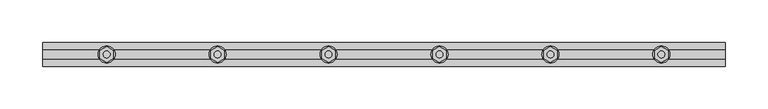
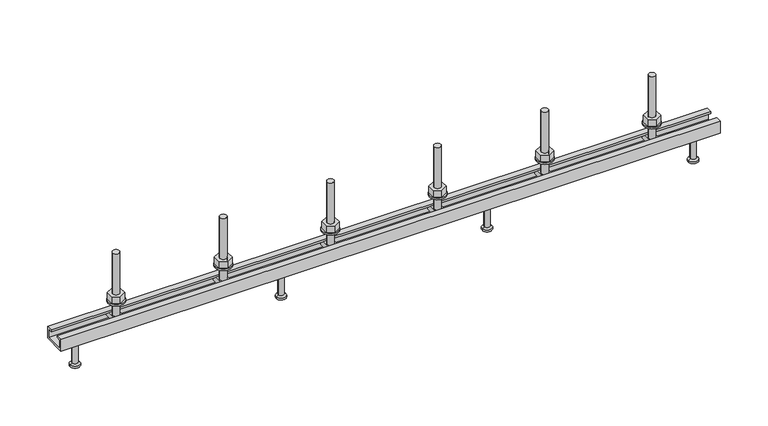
"""IFC4 building model written with IfcOpenShell, lengths in millimetres: fastener geometry, JTA-K JORDAHL® AnchorChannels : JTA-K L=800 mm."""

from ifc_helpers import new_model, si_unit, point, frame, frame_2d, origin, place, context, project, spatial, polyline, circle_curve, trimmed, segment, composite_curve, outline, extrude, source, transform, mapped, element, save
from ifc_brep_helpers import plane_surface, cylinder_surface, revolved_surface, advanced_brep


def fastener_9355f2c9(model_context):
    return source(origin(), model_context, "Body", "SolidModel", [
        extrude(outline(polyline([(595.0, 9.2376043), (603.0, 4.6188022), (603.0, -4.6188022), (595.0, -9.2376043), (587.0, -4.6188022), (587.0, 4.6188022), (595.0, 9.2376043)]), holes=[composite_curve([segment(trimmed(circle_curve(frame_2d((595.0, 0.0)), 4.0), [point((591.0, 0.0))], [point((599.0, 0.0))], True, "CARTESIAN"), True, "CONTINUOUS"), segment(trimmed(circle_curve(frame_2d((595.0, 0.0)), 4.0), [point((599.0, 0.0))], [point((591.0, 0.0))], True, "CARTESIAN"), True, "CONTINUOUS")], self_intersect=False)]), frame((0.0, 0.0, 17.0), z_axis=(0.0, 0.0, 1.0), x_axis=(1.0, 0.0, 0.0)), (0.0, 0.0, 1.0), 8.4),
        extrude(outline(composite_curve([segment(trimmed(circle_curve(frame_2d((595.0, 0.0)), 10.0), [point((585.0, 0.0))], [point((605.0, 0.0))], False, "CARTESIAN"), True, "CONTINUOUS"), segment(trimmed(circle_curve(frame_2d((595.0, 0.0)), 10.0), [point((605.0, 0.0))], [point((585.0, 0.0))], False, "CARTESIAN"), True, "CONTINUOUS")], self_intersect=False), holes=[composite_curve([segment(trimmed(circle_curve(frame_2d((595.0, 0.0)), 5.25), [point((589.75, 0.0))], [point((600.25, 0.0))], True, "CARTESIAN"), True, "CONTINUOUS"), segment(trimmed(circle_curve(frame_2d((595.0, 0.0)), 5.25), [point((600.25, 0.0))], [point((589.75, 0.0))], True, "CARTESIAN"), True, "CONTINUOUS")], self_intersect=False)]), frame((0.0, 0.0, 15.0), z_axis=(0.0, 0.0, 1.0), x_axis=(1.0, 0.0, 0.0)), (0.0, 0.0, 1.0), 2.0),
        extrude(outline(polyline([(465.0, 9.2376043), (473.0, 4.6188022), (473.0, -4.6188022), (465.0, -9.2376043), (457.0, -4.6188022), (457.0, 4.6188022), (465.0, 9.2376043)]), holes=[composite_curve([segment(trimmed(circle_curve(frame_2d((465.0, 0.0)), 4.0), [point((461.0, 0.0))], [point((469.0, 0.0))], True, "CARTESIAN"), True, "CONTINUOUS"), segment(trimmed(circle_curve(frame_2d((465.0, 0.0)), 4.0), [point((469.0, 0.0))], [point((461.0, 0.0))], True, "CARTESIAN"), True, "CONTINUOUS")], self_intersect=False)]), frame((0.0, 0.0, 17.0), z_axis=(0.0, 0.0, 1.0), x_axis=(1.0, 0.0, 0.0)), (0.0, 0.0, 1.0), 8.4),
        extrude(outline(composite_curve([segment(trimmed(circle_curve(frame_2d((465.0, 0.0)), 10.0), [point((455.0, 0.0))], [point((475.0, 0.0))], False, "CARTESIAN"), True, "CONTINUOUS"), segment(trimmed(circle_curve(frame_2d((465.0, 0.0)), 10.0), [point((475.0, 0.0))], [point((455.0, 0.0))], False, "CARTESIAN"), True, "CONTINUOUS")], self_intersect=False), holes=[composite_curve([segment(trimmed(circle_curve(frame_2d((465.0, 0.0)), 5.25), [point((459.75, 0.0))], [point((470.25, 0.0))], True, "CARTESIAN"), True, "CONTINUOUS"), segment(trimmed(circle_curve(frame_2d((465.0, 0.0)), 5.25), [point((470.25, 0.0))], [point((459.75, 0.0))], True, "CARTESIAN"), True, "CONTINUOUS")], self_intersect=False)]), frame((0.0, 0.0, 15.0), z_axis=(0.0, 0.0, 1.0), x_axis=(1.0, 0.0, 0.0)), (0.0, 0.0, 1.0), 2.0),
        extrude(outline(polyline([(335.0, 9.2376043), (343.0, 4.6188022), (343.0, -4.6188022), (335.0, -9.2376043), (327.0, -4.6188022), (327.0, 4.6188022), (335.0, 9.2376043)]), holes=[composite_curve([segment(trimmed(circle_curve(frame_2d((335.0, 0.0)), 4.0), [point((331.0, 0.0))], [point((339.0, 0.0))], True, "CARTESIAN"), True, "CONTINUOUS"), segment(trimmed(circle_curve(frame_2d((335.0, 0.0)), 4.0), [point((339.0, 0.0))], [point((331.0, 0.0))], True, "CARTESIAN"), True, "CONTINUOUS")], self_intersect=False)]), frame((0.0, 0.0, 17.0), z_axis=(0.0, 0.0, 1.0), x_axis=(1.0, 0.0, 0.0)), (0.0, 0.0, 1.0), 8.4),
        extrude(outline(composite_curve([segment(trimmed(circle_curve(frame_2d((335.0, 0.0)), 10.0), [point((325.0, 0.0))], [point((345.0, 0.0))], False, "CARTESIAN"), True, "CONTINUOUS"), segment(trimmed(circle_curve(frame_2d((335.0, 0.0)), 10.0), [point((345.0, 0.0))], [point((325.0, 0.0))], False, "CARTESIAN"), True, "CONTINUOUS")], self_intersect=False), holes=[composite_curve([segment(trimmed(circle_curve(frame_2d((335.0, 0.0)), 5.25), [point((329.75, 0.0))], [point((340.25, 0.0))], True, "CARTESIAN"), True, "CONTINUOUS"), segment(trimmed(circle_curve(frame_2d((335.0, 0.0)), 5.25), [point((340.25, 0.0))], [point((329.75, 0.0))], True, "CARTESIAN"), True, "CONTINUOUS")], self_intersect=False)]), frame((0.0, 0.0, 15.0), z_axis=(0.0, 0.0, 1.0), x_axis=(1.0, 0.0, 0.0)), (0.0, 0.0, 1.0), 2.0),
        extrude(outline(polyline([(205.0, 9.2376043), (213.0, 4.6188022), (213.0, -4.6188022), (205.0, -9.2376043), (197.0, -4.6188022), (197.0, 4.6188022), (205.0, 9.2376043)]), holes=[composite_curve([segment(trimmed(circle_curve(frame_2d((205.0, 0.0)), 4.0), [point((201.0, 0.0))], [point((209.0, 0.0))], True, "CARTESIAN"), True, "CONTINUOUS"), segment(trimmed(circle_curve(frame_2d((205.0, 0.0)), 4.0), [point((209.0, 0.0))], [point((201.0, 0.0))], True, "CARTESIAN"), True, "CONTINUOUS")], self_intersect=False)]), frame((0.0, 0.0, 17.0), z_axis=(0.0, 0.0, 1.0), x_axis=(1.0, 0.0, 0.0)), (0.0, 0.0, 1.0), 8.4),
        extrude(outline(composite_curve([segment(trimmed(circle_curve(frame_2d((205.0, 0.0)), 10.0), [point((195.0, 0.0))], [point((215.0, 0.0))], False, "CARTESIAN"), True, "CONTINUOUS"), segment(trimmed(circle_curve(frame_2d((205.0, 0.0)), 10.0), [point((215.0, 0.0))], [point((195.0, 0.0))], False, "CARTESIAN"), True, "CONTINUOUS")], self_intersect=False), holes=[composite_curve([segment(trimmed(circle_curve(frame_2d((205.0, 0.0)), 5.25), [point((199.75, 0.0))], [point((210.25, 0.0))], True, "CARTESIAN"), True, "CONTINUOUS"), segment(trimmed(circle_curve(frame_2d((205.0, 0.0)), 5.25), [point((210.25, 0.0))], [point((199.75, 0.0))], True, "CARTESIAN"), True, "CONTINUOUS")], self_intersect=False)]), frame((0.0, 0.0, 15.0), z_axis=(0.0, 0.0, 1.0), x_axis=(1.0, 0.0, 0.0)), (0.0, 0.0, 1.0), 2.0),
        advanced_brep(
        [(600.5, 11.0, -2.3), (600.5, -11.0, -2.3), (600.5, -11.0, -8.3), (600.5, 11.0, -8.3), (589.5, 11.0, -2.3), (589.5, 11.0, -8.3), (589.5, -11.0, -8.3), (589.5, -11.0, -2.3), (599.0, 0.0, -2.3), (591.0, 0.0, -2.3), (591.0, 0.0, 77.7), (599.0, 0.0, 77.7)],
        [
            (0, 1),
            (1, 2),
            (2, 3),
            (3, 0),
            (4, 5),
            (5, 6),
            (6, 7),
            (7, 4),
            (0, 4),
            (7, 1),
            (8, 9, circle_curve(frame((595.0, 0.0, -2.3), z_axis=(0.0, 0.0, -1.0), x_axis=(1.0, 0.0, 0.0)), 4.0)),
            (9, 8, circle_curve(frame((595.0, 0.0, -2.3), z_axis=(0.0, 0.0, -1.0), x_axis=(1.0, 0.0, 0.0)), 4.0)),
            (6, 2),
            (5, 3),
            (10, 11, circle_curve(frame((595.0, 0.0, 77.7), z_axis=(0.0, 0.0, 1.0), x_axis=(1.0, 0.0, 0.0)), 4.0)),
            (11, 10, circle_curve(frame((595.0, 0.0, 77.7), z_axis=(0.0, 0.0, 1.0), x_axis=(1.0, 0.0, 0.0)), 4.0)),
            (10, 9),
            (8, 11),
        ],
        [
            plane_surface(frame((600.5, -11.0, -2.3), z_axis=(1.0, 0.0, 0.0), x_axis=(0.0, -1.0, 0.0))),
            plane_surface(frame((589.5, -11.0, -2.3), z_axis=(-1.0, 0.0, 0.0), x_axis=(0.0, 1.0, 0.0))),
            plane_surface(frame((600.5, 11.0, -2.3), z_axis=(0.0, 0.0, 1.0), x_axis=(-1.0, 0.0, 0.0))),
            plane_surface(frame((600.5, -11.0, -2.3), z_axis=(0.0, -1.0, 0.0), x_axis=(-1.0, 0.0, 0.0))),
            plane_surface(frame((600.5, -11.0, -8.3), z_axis=(0.0, 0.0, -1.0), x_axis=(-1.0, 0.0, 0.0))),
            plane_surface(frame((600.5, 11.0, -8.3), z_axis=(0.0, 1.0, 0.0), x_axis=(-1.0, 0.0, 0.0))),
            plane_surface(frame((599.0, 0.0, 77.7), z_axis=(0.0, 0.0, 1.0), x_axis=(0.0, 1.0, 0.0))),
            cylinder_surface(frame((595.0, 0.0, -2.3), z_axis=(0.0, 0.0, 1.0), x_axis=(1.0, 0.0, 0.0)), 4.0),
        ],
        [
            (0, [[1, 2, 3, 4]]),
            (1, [[5, 6, 7, 8]]),
            (2, [[-1, 9, -8, 10], [11, 12]]),
            (3, [[-2, -10, -7, 13]]),
            (4, [[-3, -13, -6, 14]]),
            (5, [[-4, -14, -5, -9]]),
            (6, [[15, 16]]),
            (7, [[-15, 17, -11, 18]]),
            (7, [[-16, -18, -12, -17]]),
        ],
    ),
        advanced_brep(
        [(470.5, 11.0, -2.3), (470.5, -11.0, -2.3), (470.5, -11.0, -8.3), (470.5, 11.0, -8.3), (459.5, 11.0, -2.3), (459.5, 11.0, -8.3), (459.5, -11.0, -8.3), (459.5, -11.0, -2.3), (469.0, 0.0, -2.3), (461.0, 0.0, -2.3), (461.0, 0.0, 77.7), (469.0, 0.0, 77.7)],
        [
            (0, 1),
            (1, 2),
            (2, 3),
            (3, 0),
            (4, 5),
            (5, 6),
            (6, 7),
            (7, 4),
            (0, 4),
            (7, 1),
            (8, 9, circle_curve(frame((465.0, 0.0, -2.3), z_axis=(0.0, 0.0, -1.0), x_axis=(1.0, 0.0, 0.0)), 4.0)),
            (9, 8, circle_curve(frame((465.0, 0.0, -2.3), z_axis=(0.0, 0.0, -1.0), x_axis=(1.0, 0.0, 0.0)), 4.0)),
            (6, 2),
            (5, 3),
            (10, 11, circle_curve(frame((465.0, 0.0, 77.7), z_axis=(0.0, 0.0, 1.0), x_axis=(1.0, 0.0, 0.0)), 4.0)),
            (11, 10, circle_curve(frame((465.0, 0.0, 77.7), z_axis=(0.0, 0.0, 1.0), x_axis=(1.0, 0.0, 0.0)), 4.0)),
            (10, 9),
            (8, 11),
        ],
        [
            plane_surface(frame((470.5, -11.0, -2.3), z_axis=(1.0, 0.0, 0.0), x_axis=(0.0, -1.0, 0.0))),
            plane_surface(frame((459.5, -11.0, -2.3), z_axis=(-1.0, 0.0, 0.0), x_axis=(0.0, 1.0, 0.0))),
            plane_surface(frame((470.5, 11.0, -2.3), z_axis=(0.0, 0.0, 1.0), x_axis=(-1.0, 0.0, 0.0))),
            plane_surface(frame((470.5, -11.0, -2.3), z_axis=(0.0, -1.0, 0.0), x_axis=(-1.0, 0.0, 0.0))),
            plane_surface(frame((470.5, -11.0, -8.3), z_axis=(0.0, 0.0, -1.0), x_axis=(-1.0, 0.0, 0.0))),
            plane_surface(frame((470.5, 11.0, -8.3), z_axis=(0.0, 1.0, 0.0), x_axis=(-1.0, 0.0, 0.0))),
            plane_surface(frame((469.0, 0.0, 77.7), z_axis=(0.0, 0.0, 1.0), x_axis=(0.0, 1.0, 0.0))),
            cylinder_surface(frame((465.0, 0.0, -2.3), z_axis=(0.0, 0.0, 1.0), x_axis=(1.0, 0.0, 0.0)), 4.0),
        ],
        [
            (0, [[1, 2, 3, 4]]),
            (1, [[5, 6, 7, 8]]),
            (2, [[-1, 9, -8, 10], [11, 12]]),
            (3, [[-2, -10, -7, 13]]),
            (4, [[-3, -13, -6, 14]]),
            (5, [[-4, -14, -5, -9]]),
            (6, [[15, 16]]),
            (7, [[-15, 17, -11, 18]]),
            (7, [[-16, -18, -12, -17]]),
        ],
    ),
        advanced_brep(
        [(340.5, 11.0, -2.3), (340.5, -11.0, -2.3), (340.5, -11.0, -8.3), (340.5, 11.0, -8.3), (329.5, 11.0, -2.3), (329.5, 11.0, -8.3), (329.5, -11.0, -8.3), (329.5, -11.0, -2.3), (339.0, 0.0, -2.3), (331.0, 0.0, -2.3), (331.0, 0.0, 77.7), (339.0, 0.0, 77.7)],
        [
            (0, 1),
            (1, 2),
            (2, 3),
            (3, 0),
            (4, 5),
            (5, 6),
            (6, 7),
            (7, 4),
            (0, 4),
            (7, 1),
            (8, 9, circle_curve(frame((335.0, 0.0, -2.3), z_axis=(0.0, 0.0, -1.0), x_axis=(1.0, 0.0, 0.0)), 4.0)),
            (9, 8, circle_curve(frame((335.0, 0.0, -2.3), z_axis=(0.0, 0.0, -1.0), x_axis=(1.0, 0.0, 0.0)), 4.0)),
            (6, 2),
            (5, 3),
            (10, 11, circle_curve(frame((335.0, 0.0, 77.7), z_axis=(0.0, 0.0, 1.0), x_axis=(1.0, 0.0, 0.0)), 4.0)),
            (11, 10, circle_curve(frame((335.0, 0.0, 77.7), z_axis=(0.0, 0.0, 1.0), x_axis=(1.0, 0.0, 0.0)), 4.0)),
            (10, 9),
            (8, 11),
        ],
        [
            plane_surface(frame((340.5, -11.0, -2.3), z_axis=(1.0, 0.0, 0.0), x_axis=(0.0, -1.0, 0.0))),
            plane_surface(frame((329.5, -11.0, -2.3), z_axis=(-1.0, 0.0, 0.0), x_axis=(0.0, 1.0, 0.0))),
            plane_surface(frame((340.5, 11.0, -2.3), z_axis=(0.0, 0.0, 1.0), x_axis=(-1.0, 0.0, 0.0))),
            plane_surface(frame((340.5, -11.0, -2.3), z_axis=(0.0, -1.0, 0.0), x_axis=(-1.0, 0.0, 0.0))),
            plane_surface(frame((340.5, -11.0, -8.3), z_axis=(0.0, 0.0, -1.0), x_axis=(-1.0, 0.0, 0.0))),
            plane_surface(frame((340.5, 11.0, -8.3), z_axis=(0.0, 1.0, 0.0), x_axis=(-1.0, 0.0, 0.0))),
            plane_surface(frame((339.0, 0.0, 77.7), z_axis=(0.0, 0.0, 1.0), x_axis=(0.0, 1.0, 0.0))),
            cylinder_surface(frame((335.0, 0.0, -2.3), z_axis=(0.0, 0.0, 1.0), x_axis=(1.0, 0.0, 0.0)), 4.0),
        ],
        [
            (0, [[1, 2, 3, 4]]),
            (1, [[5, 6, 7, 8]]),
            (2, [[-1, 9, -8, 10], [11, 12]]),
            (3, [[-2, -10, -7, 13]]),
            (4, [[-3, -13, -6, 14]]),
            (5, [[-4, -14, -5, -9]]),
            (6, [[15, 16]]),
            (7, [[-15, 17, -11, 18]]),
            (7, [[-16, -18, -12, -17]]),
        ],
    ),
        advanced_brep(
        [(210.5, 11.0, -2.3), (210.5, -11.0, -2.3), (210.5, -11.0, -8.3), (210.5, 11.0, -8.3), (199.5, 11.0, -2.3), (199.5, 11.0, -8.3), (199.5, -11.0, -8.3), (199.5, -11.0, -2.3), (209.0, 0.0, -2.3), (201.0, 0.0, -2.3), (201.0, 0.0, 77.7), (209.0, 0.0, 77.7)],
        [
            (0, 1),
            (1, 2),
            (2, 3),
            (3, 0),
            (4, 5),
            (5, 6),
            (6, 7),
            (7, 4),
            (0, 4),
            (7, 1),
            (8, 9, circle_curve(frame((205.0, 0.0, -2.3), z_axis=(0.0, 0.0, -1.0), x_axis=(1.0, 0.0, 0.0)), 4.0)),
            (9, 8, circle_curve(frame((205.0, 0.0, -2.3), z_axis=(0.0, 0.0, -1.0), x_axis=(1.0, 0.0, 0.0)), 4.0)),
            (6, 2),
            (5, 3),
            (10, 11, circle_curve(frame((205.0, 0.0, 77.7), z_axis=(0.0, 0.0, 1.0), x_axis=(1.0, 0.0, 0.0)), 4.0)),
            (11, 10, circle_curve(frame((205.0, 0.0, 77.7), z_axis=(0.0, 0.0, 1.0), x_axis=(1.0, 0.0, 0.0)), 4.0)),
            (10, 9),
            (8, 11),
        ],
        [
            plane_surface(frame((210.5, -11.0, -2.3), z_axis=(1.0, 0.0, 0.0), x_axis=(0.0, -1.0, 0.0))),
            plane_surface(frame((199.5, -11.0, -2.3), z_axis=(-1.0, 0.0, 0.0), x_axis=(0.0, 1.0, 0.0))),
            plane_surface(frame((210.5, 11.0, -2.3), z_axis=(0.0, 0.0, 1.0), x_axis=(-1.0, 0.0, 0.0))),
            plane_surface(frame((210.5, -11.0, -2.3), z_axis=(0.0, -1.0, 0.0), x_axis=(-1.0, 0.0, 0.0))),
            plane_surface(frame((210.5, -11.0, -8.3), z_axis=(0.0, 0.0, -1.0), x_axis=(-1.0, 0.0, 0.0))),
            plane_surface(frame((210.5, 11.0, -8.3), z_axis=(0.0, 1.0, 0.0), x_axis=(-1.0, 0.0, 0.0))),
            plane_surface(frame((209.0, 0.0, 77.7), z_axis=(0.0, 0.0, 1.0), x_axis=(0.0, 1.0, 0.0))),
            cylinder_surface(frame((205.0, 0.0, -2.3), z_axis=(0.0, 0.0, 1.0), x_axis=(1.0, 0.0, 0.0)), 4.0),
        ],
        [
            (0, [[1, 2, 3, 4]]),
            (1, [[5, 6, 7, 8]]),
            (2, [[-1, 9, -8, 10], [11, 12]]),
            (3, [[-2, -10, -7, 13]]),
            (4, [[-3, -13, -6, 14]]),
            (5, [[-4, -14, -5, -9]]),
            (6, [[15, 16]]),
            (7, [[-15, 17, -11, 18]]),
            (7, [[-16, -18, -12, -17]]),
        ],
    ),
        advanced_brep(
        [(525.0, 0.0, -15.0), (535.5, 0.0, -15.0), (514.5, 0.0, -15.0), (519.0, 0.0, -50.0), (531.0, 0.0, -50.0), (525.0, 0.0, -50.0), (519.0, 0.0, -48.0), (531.0, 0.0, -48.0), (521.5, 0.0, -46.5566243), (528.5, 0.0, -46.5566243), (521.5, 0.0, -17.5), (528.5, 0.0, -17.5)],
        [
            (0, 1),
            (1, 2, circle_curve(frame((525.0, 0.0, -15.0), z_axis=(0.0, 0.0, 1.0), x_axis=(1.0, 0.0, 0.0)), 10.5)),
            (2, 0),
            (2, 1, circle_curve(frame((525.0, 0.0, -15.0), z_axis=(0.0, 0.0, 1.0), x_axis=(1.0, 0.0, 0.0)), 10.5)),
            (3, 4, circle_curve(frame((525.0, 0.0, -50.0), z_axis=(0.0, 0.0, -1.0), x_axis=(1.0, 0.0, 0.0)), 6.0)),
            (4, 5),
            (5, 3),
            (4, 3, circle_curve(frame((525.0, 0.0, -50.0), z_axis=(0.0, 0.0, -1.0), x_axis=(1.0, 0.0, 0.0)), 6.0)),
            (6, 7, circle_curve(frame((525.0, 0.0, -48.0), z_axis=(0.0, 0.0, -1.0), x_axis=(1.0, 0.0, 0.0)), 6.0)),
            (7, 4),
            (3, 6),
            (7, 6, circle_curve(frame((525.0, 0.0, -48.0), z_axis=(0.0, 0.0, -1.0), x_axis=(1.0, 0.0, 0.0)), 6.0)),
            (8, 9, circle_curve(frame((525.0, 0.0, -46.5566243), z_axis=(0.0, 0.0, -1.0), x_axis=(1.0, 0.0, 0.0)), 3.5)),
            (9, 7),
            (6, 8),
            (9, 8, circle_curve(frame((525.0, 0.0, -46.5566243), z_axis=(0.0, 0.0, -1.0), x_axis=(1.0, 0.0, 0.0)), 3.5)),
            (10, 11, circle_curve(frame((525.0, 0.0, -17.5), z_axis=(0.0, 0.0, -1.0), x_axis=(1.0, 0.0, 0.0)), 3.5)),
            (11, 9),
            (8, 10),
            (11, 10, circle_curve(frame((525.0, 0.0, -17.5), z_axis=(0.0, 0.0, -1.0), x_axis=(1.0, 0.0, 0.0)), 3.5)),
            (1, 11),
            (10, 2),
        ],
        [
            plane_surface(frame((525.0, 0.0, -15.0), z_axis=(0.0, 0.0, 1.0), x_axis=(1.0, 0.0, 0.0))),
            plane_surface(frame((525.0, 0.0, -50.0), z_axis=(0.0, 0.0, -1.0), x_axis=(1.0, 0.0, 0.0))),
            cylinder_surface(frame((525.0, 0.0, 2249.3150031), z_axis=(0.0, 0.0, 1.0), x_axis=(1.0, 0.0, 0.0)), 6.0),
            revolved_surface(polyline([(531.0, 0.0, -48.0), (528.5, 0.0, -46.5566243)]), (525.0, 0.0, 2249.3150031), (0.0, 0.0, 1.0)),
            cylinder_surface(frame((525.0, 0.0, 2249.3150031), z_axis=(0.0, 0.0, 1.0), x_axis=(1.0, 0.0, 0.0)), 3.5),
            revolved_surface(polyline([(528.5, 0.0, -17.5), (535.5, 0.0, -15.0)]), (525.0, 0.0, 2249.3150031), (0.0, 0.0, 1.0)),
        ],
        [
            (0, [[1, 2, 3]]),
            (0, [[-3, 4, -1]]),
            (1, [[5, 6, 7]]),
            (1, [[8, -7, -6]]),
            (2, [[9, 10, -5, 11]]),
            (2, [[12, -11, -8, -10]]),
            (3, [[13, 14, -9, 15]]),
            (3, [[16, -15, -12, -14]]),
            (4, [[17, 18, -13, 19]]),
            (4, [[20, -19, -16, -18]]),
            (5, [[-2, 21, -17, 22]]),
            (5, [[-4, -22, -20, -21]]),
        ],
    ),
        advanced_brep(
        [(275.0, 0.0, -15.0), (285.5, 0.0, -15.0), (264.5, 0.0, -15.0), (269.0, 0.0, -50.0), (281.0, 0.0, -50.0), (275.0, 0.0, -50.0), (269.0, 0.0, -48.0), (281.0, 0.0, -48.0), (271.5, 0.0, -46.5566243), (278.5, 0.0, -46.5566243), (271.5, 0.0, -17.5), (278.5, 0.0, -17.5)],
        [
            (0, 1),
            (1, 2, circle_curve(frame((275.0, 0.0, -15.0), z_axis=(0.0, 0.0, 1.0), x_axis=(1.0, 0.0, 0.0)), 10.5)),
            (2, 0),
            (2, 1, circle_curve(frame((275.0, 0.0, -15.0), z_axis=(0.0, 0.0, 1.0), x_axis=(1.0, 0.0, 0.0)), 10.5)),
            (3, 4, circle_curve(frame((275.0, 0.0, -50.0), z_axis=(0.0, 0.0, -1.0), x_axis=(1.0, 0.0, 0.0)), 6.0)),
            (4, 5),
            (5, 3),
            (4, 3, circle_curve(frame((275.0, 0.0, -50.0), z_axis=(0.0, 0.0, -1.0), x_axis=(1.0, 0.0, 0.0)), 6.0)),
            (6, 7, circle_curve(frame((275.0, 0.0, -48.0), z_axis=(0.0, 0.0, -1.0), x_axis=(1.0, 0.0, 0.0)), 6.0)),
            (7, 4),
            (3, 6),
            (7, 6, circle_curve(frame((275.0, 0.0, -48.0), z_axis=(0.0, 0.0, -1.0), x_axis=(1.0, 0.0, 0.0)), 6.0)),
            (8, 9, circle_curve(frame((275.0, 0.0, -46.5566243), z_axis=(0.0, 0.0, -1.0), x_axis=(1.0, 0.0, 0.0)), 3.5)),
            (9, 7),
            (6, 8),
            (9, 8, circle_curve(frame((275.0, 0.0, -46.5566243), z_axis=(0.0, 0.0, -1.0), x_axis=(1.0, 0.0, 0.0)), 3.5)),
            (10, 11, circle_curve(frame((275.0, 0.0, -17.5), z_axis=(0.0, 0.0, -1.0), x_axis=(1.0, 0.0, 0.0)), 3.5)),
            (11, 9),
            (8, 10),
            (11, 10, circle_curve(frame((275.0, 0.0, -17.5), z_axis=(0.0, 0.0, -1.0), x_axis=(1.0, 0.0, 0.0)), 3.5)),
            (1, 11),
            (10, 2),
        ],
        [
            plane_surface(frame((275.0, 0.0, -15.0), z_axis=(0.0, 0.0, 1.0), x_axis=(1.0, 0.0, 0.0))),
            plane_surface(frame((275.0, 0.0, -50.0), z_axis=(0.0, 0.0, -1.0), x_axis=(1.0, 0.0, 0.0))),
            cylinder_surface(frame((275.0, 0.0, 2249.3150031), z_axis=(0.0, 0.0, 1.0), x_axis=(1.0, 0.0, 0.0)), 6.0),
            revolved_surface(polyline([(281.0, 0.0, -48.0), (278.5, 0.0, -46.5566243)]), (275.0, 0.0, 2249.3150031), (0.0, 0.0, 1.0)),
            cylinder_surface(frame((275.0, 0.0, 2249.3150031), z_axis=(0.0, 0.0, 1.0), x_axis=(1.0, 0.0, 0.0)), 3.5),
            revolved_surface(polyline([(278.5, 0.0, -17.5), (285.5, 0.0, -15.0)]), (275.0, 0.0, 2249.3150031), (0.0, 0.0, 1.0)),
        ],
        [
            (0, [[1, 2, 3]]),
            (0, [[-3, 4, -1]]),
            (1, [[5, 6, 7]]),
            (1, [[8, -7, -6]]),
            (2, [[9, 10, -5, 11]]),
            (2, [[12, -11, -8, -10]]),
            (3, [[13, 14, -9, 15]]),
            (3, [[16, -15, -12, -14]]),
            (4, [[17, 18, -13, 19]]),
            (4, [[20, -19, -16, -18]]),
            (5, [[-2, 21, -17, 22]]),
            (5, [[-4, -22, -20, -21]]),
        ],
    ),
        extrude(outline(polyline([(725.0, 9.2376043), (733.0, 4.6188022), (733.0, -4.6188022), (725.0, -9.2376043), (717.0, -4.6188022), (717.0, 4.6188022), (725.0, 9.2376043)]), holes=[composite_curve([segment(trimmed(circle_curve(frame_2d((725.0, 0.0)), 4.0), [point((721.0, 0.0))], [point((729.0, 0.0))], True, "CARTESIAN"), True, "CONTINUOUS"), segment(trimmed(circle_curve(frame_2d((725.0, 0.0)), 4.0), [point((729.0, 0.0))], [point((721.0, 0.0))], True, "CARTESIAN"), True, "CONTINUOUS")], self_intersect=False)]), frame((0.0, 0.0, 17.0), z_axis=(0.0, 0.0, 1.0), x_axis=(1.0, 0.0, 0.0)), (0.0, 0.0, 1.0), 8.4),
        extrude(outline(composite_curve([segment(trimmed(circle_curve(frame_2d((725.0, 0.0)), 10.0), [point((715.0, 0.0))], [point((735.0, 0.0))], False, "CARTESIAN"), True, "CONTINUOUS"), segment(trimmed(circle_curve(frame_2d((725.0, 0.0)), 10.0), [point((735.0, 0.0))], [point((715.0, 0.0))], False, "CARTESIAN"), True, "CONTINUOUS")], self_intersect=False), holes=[composite_curve([segment(trimmed(circle_curve(frame_2d((725.0, 0.0)), 5.25), [point((719.75, 0.0))], [point((730.25, 0.0))], True, "CARTESIAN"), True, "CONTINUOUS"), segment(trimmed(circle_curve(frame_2d((725.0, 0.0)), 5.25), [point((730.25, 0.0))], [point((719.75, 0.0))], True, "CARTESIAN"), True, "CONTINUOUS")], self_intersect=False)]), frame((0.0, 0.0, 15.0), z_axis=(0.0, 0.0, 1.0), x_axis=(1.0, 0.0, 0.0)), (0.0, 0.0, 1.0), 2.0),
        extrude(outline(polyline([(75.0, 9.2376043), (83.0, 4.6188022), (83.0, -4.6188022), (75.0, -9.2376043), (67.0, -4.6188022), (67.0, 4.6188022), (75.0, 9.2376043)]), holes=[composite_curve([segment(trimmed(circle_curve(frame_2d((75.0, 0.0)), 4.0), [point((71.0, 0.0))], [point((79.0, 0.0))], True, "CARTESIAN"), True, "CONTINUOUS"), segment(trimmed(circle_curve(frame_2d((75.0, 0.0)), 4.0), [point((79.0, 0.0))], [point((71.0, 0.0))], True, "CARTESIAN"), True, "CONTINUOUS")], self_intersect=False)]), frame((0.0, 0.0, 17.0), z_axis=(0.0, 0.0, 1.0), x_axis=(1.0, 0.0, 0.0)), (0.0, 0.0, 1.0), 8.4),
        extrude(outline(composite_curve([segment(trimmed(circle_curve(frame_2d((75.0, 0.0)), 10.0), [point((65.0, 0.0))], [point((85.0, 0.0))], False, "CARTESIAN"), True, "CONTINUOUS"), segment(trimmed(circle_curve(frame_2d((75.0, 0.0)), 10.0), [point((85.0, 0.0))], [point((65.0, 0.0))], False, "CARTESIAN"), True, "CONTINUOUS")], self_intersect=False), holes=[composite_curve([segment(trimmed(circle_curve(frame_2d((75.0, 0.0)), 5.25), [point((69.75, 0.0))], [point((80.25, 0.0))], True, "CARTESIAN"), True, "CONTINUOUS"), segment(trimmed(circle_curve(frame_2d((75.0, 0.0)), 5.25), [point((80.25, 0.0))], [point((69.75, 0.0))], True, "CARTESIAN"), True, "CONTINUOUS")], self_intersect=False)]), frame((0.0, 0.0, 15.0), z_axis=(0.0, 0.0, 1.0), x_axis=(1.0, 0.0, 0.0)), (0.0, 0.0, 1.0), 2.0),
        advanced_brep(
        [(730.5, 11.0, -2.3), (730.5, -11.0, -2.3), (730.5, -11.0, -8.3), (730.5, 11.0, -8.3), (719.5, 11.0, -2.3), (719.5, 11.0, -8.3), (719.5, -11.0, -8.3), (719.5, -11.0, -2.3), (729.0, 0.0, -2.3), (721.0, 0.0, -2.3), (721.0, 0.0, 77.7), (729.0, 0.0, 77.7)],
        [
            (0, 1),
            (1, 2),
            (2, 3),
            (3, 0),
            (4, 5),
            (5, 6),
            (6, 7),
            (7, 4),
            (0, 4),
            (7, 1),
            (8, 9, circle_curve(frame((725.0, 0.0, -2.3), z_axis=(0.0, 0.0, -1.0), x_axis=(1.0, 0.0, 0.0)), 4.0)),
            (9, 8, circle_curve(frame((725.0, 0.0, -2.3), z_axis=(0.0, 0.0, -1.0), x_axis=(1.0, 0.0, 0.0)), 4.0)),
            (6, 2),
            (5, 3),
            (10, 11, circle_curve(frame((725.0, 0.0, 77.7), z_axis=(0.0, 0.0, 1.0), x_axis=(1.0, 0.0, 0.0)), 4.0)),
            (11, 10, circle_curve(frame((725.0, 0.0, 77.7), z_axis=(0.0, 0.0, 1.0), x_axis=(1.0, 0.0, 0.0)), 4.0)),
            (10, 9),
            (8, 11),
        ],
        [
            plane_surface(frame((730.5, -11.0, -2.3), z_axis=(1.0, 0.0, 0.0), x_axis=(0.0, -1.0, 0.0))),
            plane_surface(frame((719.5, -11.0, -2.3), z_axis=(-1.0, 0.0, 0.0), x_axis=(0.0, 1.0, 0.0))),
            plane_surface(frame((730.5, 11.0, -2.3), z_axis=(0.0, 0.0, 1.0), x_axis=(-1.0, 0.0, 0.0))),
            plane_surface(frame((730.5, -11.0, -2.3), z_axis=(0.0, -1.0, 0.0), x_axis=(-1.0, 0.0, 0.0))),
            plane_surface(frame((730.5, -11.0, -8.3), z_axis=(0.0, 0.0, -1.0), x_axis=(-1.0, 0.0, 0.0))),
            plane_surface(frame((730.5, 11.0, -8.3), z_axis=(0.0, 1.0, 0.0), x_axis=(-1.0, 0.0, 0.0))),
            plane_surface(frame((729.0, 0.0, 77.7), z_axis=(0.0, 0.0, 1.0), x_axis=(0.0, 1.0, 0.0))),
            cylinder_surface(frame((725.0, 0.0, -2.3), z_axis=(0.0, 0.0, 1.0), x_axis=(1.0, 0.0, 0.0)), 4.0),
        ],
        [
            (0, [[1, 2, 3, 4]]),
            (1, [[5, 6, 7, 8]]),
            (2, [[-1, 9, -8, 10], [11, 12]]),
            (3, [[-2, -10, -7, 13]]),
            (4, [[-3, -13, -6, 14]]),
            (5, [[-4, -14, -5, -9]]),
            (6, [[15, 16]]),
            (7, [[-15, 17, -11, 18]]),
            (7, [[-16, -18, -12, -17]]),
        ],
    ),
        advanced_brep(
        [(80.5, 11.0, -2.3), (80.5, -11.0, -2.3), (80.5, -11.0, -8.3), (80.5, 11.0, -8.3), (69.5, 11.0, -2.3), (69.5, 11.0, -8.3), (69.5, -11.0, -8.3), (69.5, -11.0, -2.3), (79.0, 0.0, -2.3), (71.0, 0.0, -2.3), (71.0, 0.0, 77.7), (79.0, 0.0, 77.7)],
        [
            (0, 1),
            (1, 2),
            (2, 3),
            (3, 0),
            (4, 5),
            (5, 6),
            (6, 7),
            (7, 4),
            (0, 4),
            (7, 1),
            (8, 9, circle_curve(frame((75.0, 0.0, -2.3), z_axis=(0.0, 0.0, -1.0), x_axis=(1.0, 0.0, 0.0)), 4.0)),
            (9, 8, circle_curve(frame((75.0, 0.0, -2.3), z_axis=(0.0, 0.0, -1.0), x_axis=(1.0, 0.0, 0.0)), 4.0)),
            (6, 2),
            (5, 3),
            (10, 11, circle_curve(frame((75.0, 0.0, 77.7), z_axis=(0.0, 0.0, 1.0), x_axis=(1.0, 0.0, 0.0)), 4.0)),
            (11, 10, circle_curve(frame((75.0, 0.0, 77.7), z_axis=(0.0, 0.0, 1.0), x_axis=(1.0, 0.0, 0.0)), 4.0)),
            (10, 9),
            (8, 11),
        ],
        [
            plane_surface(frame((80.5, -11.0, -2.3), z_axis=(1.0, 0.0, 0.0), x_axis=(0.0, -1.0, 0.0))),
            plane_surface(frame((69.5, -11.0, -2.3), z_axis=(-1.0, 0.0, 0.0), x_axis=(0.0, 1.0, 0.0))),
            plane_surface(frame((80.5, 11.0, -2.3), z_axis=(0.0, 0.0, 1.0), x_axis=(-1.0, 0.0, 0.0))),
            plane_surface(frame((80.5, -11.0, -2.3), z_axis=(0.0, -1.0, 0.0), x_axis=(-1.0, 0.0, 0.0))),
            plane_surface(frame((80.5, -11.0, -8.3), z_axis=(0.0, 0.0, -1.0), x_axis=(-1.0, 0.0, 0.0))),
            plane_surface(frame((80.5, 11.0, -8.3), z_axis=(0.0, 1.0, 0.0), x_axis=(-1.0, 0.0, 0.0))),
            plane_surface(frame((79.0, 0.0, 77.7), z_axis=(0.0, 0.0, 1.0), x_axis=(0.0, 1.0, 0.0))),
            cylinder_surface(frame((75.0, 0.0, -2.3), z_axis=(0.0, 0.0, 1.0), x_axis=(1.0, 0.0, 0.0)), 4.0),
        ],
        [
            (0, [[1, 2, 3, 4]]),
            (1, [[5, 6, 7, 8]]),
            (2, [[-1, 9, -8, 10], [11, 12]]),
            (3, [[-2, -10, -7, 13]]),
            (4, [[-3, -13, -6, 14]]),
            (5, [[-4, -14, -5, -9]]),
            (6, [[15, 16]]),
            (7, [[-15, 17, -11, 18]]),
            (7, [[-16, -18, -12, -17]]),
        ],
    ),
        advanced_brep(
        [(775.0, 0.0, -15.0), (785.5, 0.0, -15.0), (764.5, 0.0, -15.0), (769.0, 0.0, -50.0), (781.0, 0.0, -50.0), (775.0, 0.0, -50.0), (769.0, 0.0, -48.0), (781.0, 0.0, -48.0), (771.5, 0.0, -46.5566243), (778.5, 0.0, -46.5566243), (771.5, 0.0, -17.5), (778.5, 0.0, -17.5)],
        [
            (0, 1),
            (1, 2, circle_curve(frame((775.0, 0.0, -15.0), z_axis=(0.0, 0.0, 1.0), x_axis=(1.0, 0.0, 0.0)), 10.5)),
            (2, 0),
            (2, 1, circle_curve(frame((775.0, 0.0, -15.0), z_axis=(0.0, 0.0, 1.0), x_axis=(1.0, 0.0, 0.0)), 10.5)),
            (3, 4, circle_curve(frame((775.0, 0.0, -50.0), z_axis=(0.0, 0.0, -1.0), x_axis=(1.0, 0.0, 0.0)), 6.0)),
            (4, 5),
            (5, 3),
            (4, 3, circle_curve(frame((775.0, 0.0, -50.0), z_axis=(0.0, 0.0, -1.0), x_axis=(1.0, 0.0, 0.0)), 6.0)),
            (6, 7, circle_curve(frame((775.0, 0.0, -48.0), z_axis=(0.0, 0.0, -1.0), x_axis=(1.0, 0.0, 0.0)), 6.0)),
            (7, 4),
            (3, 6),
            (7, 6, circle_curve(frame((775.0, 0.0, -48.0), z_axis=(0.0, 0.0, -1.0), x_axis=(1.0, 0.0, 0.0)), 6.0)),
            (8, 9, circle_curve(frame((775.0, 0.0, -46.5566243), z_axis=(0.0, 0.0, -1.0), x_axis=(1.0, 0.0, 0.0)), 3.5)),
            (9, 7),
            (6, 8),
            (9, 8, circle_curve(frame((775.0, 0.0, -46.5566243), z_axis=(0.0, 0.0, -1.0), x_axis=(1.0, 0.0, 0.0)), 3.5)),
            (10, 11, circle_curve(frame((775.0, 0.0, -17.5), z_axis=(0.0, 0.0, -1.0), x_axis=(1.0, 0.0, 0.0)), 3.5)),
            (11, 9),
            (8, 10),
            (11, 10, circle_curve(frame((775.0, 0.0, -17.5), z_axis=(0.0, 0.0, -1.0), x_axis=(1.0, 0.0, 0.0)), 3.5)),
            (1, 11),
            (10, 2),
        ],
        [
            plane_surface(frame((775.0, 0.0, -15.0), z_axis=(0.0, 0.0, 1.0), x_axis=(1.0, 0.0, 0.0))),
            plane_surface(frame((775.0, 0.0, -50.0), z_axis=(0.0, 0.0, -1.0), x_axis=(1.0, 0.0, 0.0))),
            cylinder_surface(frame((775.0, 0.0, 2249.3150031), z_axis=(0.0, 0.0, 1.0), x_axis=(1.0, 0.0, 0.0)), 6.0),
            revolved_surface(polyline([(781.0, 0.0, -48.0), (778.5, 0.0, -46.5566243)]), (775.0, 0.0, 2249.3150031), (0.0, 0.0, 1.0)),
            cylinder_surface(frame((775.0, 0.0, 2249.3150031), z_axis=(0.0, 0.0, 1.0), x_axis=(1.0, 0.0, 0.0)), 3.5),
            revolved_surface(polyline([(778.5, 0.0, -17.5), (785.5, 0.0, -15.0)]), (775.0, 0.0, 2249.3150031), (0.0, 0.0, 1.0)),
        ],
        [
            (0, [[1, 2, 3]]),
            (0, [[-3, 4, -1]]),
            (1, [[5, 6, 7]]),
            (1, [[8, -7, -6]]),
            (2, [[9, 10, -5, 11]]),
            (2, [[12, -11, -8, -10]]),
            (3, [[13, 14, -9, 15]]),
            (3, [[16, -15, -12, -14]]),
            (4, [[17, 18, -13, 19]]),
            (4, [[20, -19, -16, -18]]),
            (5, [[-2, 21, -17, 22]]),
            (5, [[-4, -22, -20, -21]]),
        ],
    ),
        advanced_brep(
        [(25.0, 0.0, -15.0), (35.5, 0.0, -15.0), (14.5, 0.0, -15.0), (19.0, 0.0, -50.0), (31.0, 0.0, -50.0), (25.0, 0.0, -50.0), (19.0, 0.0, -48.0), (31.0, 0.0, -48.0), (21.5, 0.0, -46.5566243), (28.5, 0.0, -46.5566243), (21.5, 0.0, -17.5), (28.5, 0.0, -17.5)],
        [
            (0, 1),
            (1, 2, circle_curve(frame((25.0, 0.0, -15.0), z_axis=(0.0, 0.0, 1.0), x_axis=(1.0, 0.0, 0.0)), 10.5)),
            (2, 0),
            (2, 1, circle_curve(frame((25.0, 0.0, -15.0), z_axis=(0.0, 0.0, 1.0), x_axis=(1.0, 0.0, 0.0)), 10.5)),
            (3, 4, circle_curve(frame((25.0, 0.0, -50.0), z_axis=(0.0, 0.0, -1.0), x_axis=(1.0, 0.0, 0.0)), 6.0)),
            (4, 5),
            (5, 3),
            (4, 3, circle_curve(frame((25.0, 0.0, -50.0), z_axis=(0.0, 0.0, -1.0), x_axis=(1.0, 0.0, 0.0)), 6.0)),
            (6, 7, circle_curve(frame((25.0, 0.0, -48.0), z_axis=(0.0, 0.0, -1.0), x_axis=(1.0, 0.0, 0.0)), 6.0)),
            (7, 4),
            (3, 6),
            (7, 6, circle_curve(frame((25.0, 0.0, -48.0), z_axis=(0.0, 0.0, -1.0), x_axis=(1.0, 0.0, 0.0)), 6.0)),
            (8, 9, circle_curve(frame((25.0, 0.0, -46.5566243), z_axis=(0.0, 0.0, -1.0), x_axis=(1.0, 0.0, 0.0)), 3.5)),
            (9, 7),
            (6, 8),
            (9, 8, circle_curve(frame((25.0, 0.0, -46.5566243), z_axis=(0.0, 0.0, -1.0), x_axis=(1.0, 0.0, 0.0)), 3.5)),
            (10, 11, circle_curve(frame((25.0, 0.0, -17.5), z_axis=(0.0, 0.0, -1.0), x_axis=(1.0, 0.0, 0.0)), 3.5)),
            (11, 9),
            (8, 10),
            (11, 10, circle_curve(frame((25.0, 0.0, -17.5), z_axis=(0.0, 0.0, -1.0), x_axis=(1.0, 0.0, 0.0)), 3.5)),
            (1, 11),
            (10, 2),
        ],
        [
            plane_surface(frame((25.0, 0.0, -15.0), z_axis=(0.0, 0.0, 1.0), x_axis=(1.0, 0.0, 0.0))),
            plane_surface(frame((25.0, 0.0, -50.0), z_axis=(0.0, 0.0, -1.0), x_axis=(1.0, 0.0, 0.0))),
            cylinder_surface(frame((25.0, 0.0, 2249.3150031), z_axis=(0.0, 0.0, 1.0), x_axis=(1.0, 0.0, 0.0)), 6.0),
            revolved_surface(polyline([(31.0, 0.0, -48.0), (28.5, 0.0, -46.5566243)]), (25.0, 0.0, 2249.3150031), (0.0, 0.0, 1.0)),
            cylinder_surface(frame((25.0, 0.0, 2249.3150031), z_axis=(0.0, 0.0, 1.0), x_axis=(1.0, 0.0, 0.0)), 3.5),
            revolved_surface(polyline([(28.5, 0.0, -17.5), (35.5, 0.0, -15.0)]), (25.0, 0.0, 2249.3150031), (0.0, 0.0, 1.0)),
        ],
        [
            (0, [[1, 2, 3]]),
            (0, [[-3, 4, -1]]),
            (1, [[5, 6, 7]]),
            (1, [[8, -7, -6]]),
            (2, [[9, 10, -5, 11]]),
            (2, [[12, -11, -8, -10]]),
            (3, [[13, 14, -9, 15]]),
            (3, [[16, -15, -12, -14]]),
            (4, [[17, 18, -13, 19]]),
            (4, [[20, -19, -16, -18]]),
            (5, [[-2, 21, -17, 22]]),
            (5, [[-4, -22, -20, -21]]),
        ],
    ),
        extrude(outline(polyline([(14.0, 0.0), (14.0, -15.0), (-14.0, -15.0), (-14.0, 0.0), (-6.0, 0.0), (-6.0, -2.3), (-11.7, -2.3), (-11.7, -12.7), (11.7, -12.7), (11.7, -2.3), (6.0, -2.3), (6.0, 0.0), (14.0, 0.0)])), frame((0.0, 0.0, 0.0), z_axis=(1.0, 0.0, 0.0), x_axis=(0.0, 1.0, 0.0)), (0.0, 0.0, 1.0), 800.0),
    ])


if __name__ == "__main__":
    model = new_model("IFC4")
    model_context = context("Model", 3, world=origin())
    ifc_project = project(units=[si_unit("LENGTHUNIT", "METRE", prefix="MILLI")], contexts=[model_context])
    site = spatial("IfcSite", under=ifc_project)
    building = spatial("IfcBuilding", under=site)
    placement = place(None, origin())
    fastener_shape = fastener_9355f2c9(model_context)
    element("IfcFastener", 1, ObjectType="JTA-K JORDAHL® AnchorChannels : JTA-K L=800 mm", at=placement, inside=building, context=model_context, shape_type="MappedRepresentation", body=[
        mapped(fastener_shape, transform((0.0, 0.0, 0.0), x_axis=(1.0, 0.0, 0.0), y_axis=(0.0, 1.0, 0.0), z_axis=(0.0, 0.0, 1.0))),
    ])
    save(model, "model.ifc")
